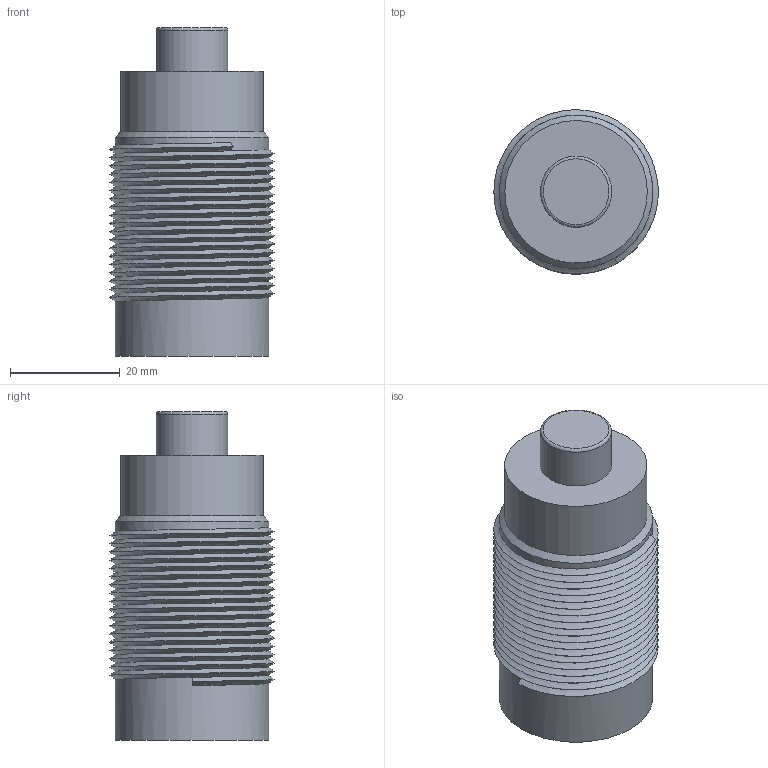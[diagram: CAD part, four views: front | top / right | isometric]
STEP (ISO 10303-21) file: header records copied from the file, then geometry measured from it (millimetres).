
FILE_DESCRIPTION(/* description */ ('Alibre Inc.'),/* implementation_level */ '2;1');
FILE_NAME(/* name */ 'export0',/* time_stamp */ '2013-08-15T12:20:52-06:00',/* author */ (''),/* organization */ (''),/* preprocessor_version */ 'ST-DEVELOPER v14',/* originating_system */ 'Alibre',/* authorisation */ '');
FILE_SCHEMA (('ALIBRE_SCHEMA','CONFIG_CONTROL_DESIGN'));
Length unit declared in the file: centimetre
Products named in the file (1): ID_1
Bounding box: 29.97 x 29.98 x 60 mm (x, y, z)
Surface area: 7759.4 mm2 (no closed solid volume)
Topology: 0 solids, 1 shells, 13 faces, 60 edges, 49 vertices
Faces by surface type: plane 5, cylinder 4, bspline 2, cone 1, torus 1
Full cylindrical faces by diameter (mm): 13 x1, 26 x1, 28 x2
Entity records: 3870 total; most frequent: CARTESIAN_POINT 2948, DIRECTION 62, REFERENCEDEPENDENTUV 38, CONSTRAINTPAIRUV 36, ENTITYHEADERPROPERTIES 33, INTEGERVALUEPAIR 33, ORIENTED_EDGE 32, PERSISTANTTOPOLOGYATTRIBUTE 29
